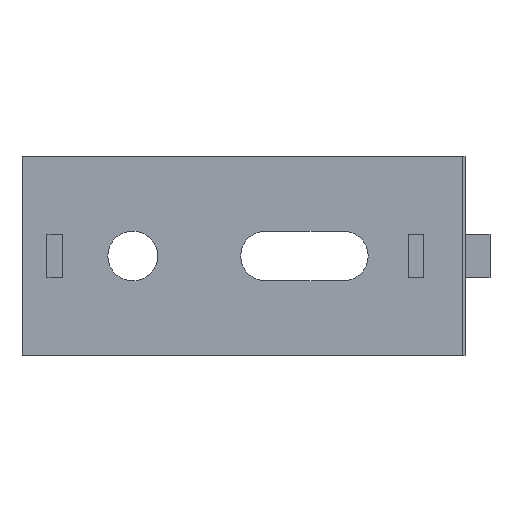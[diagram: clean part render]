
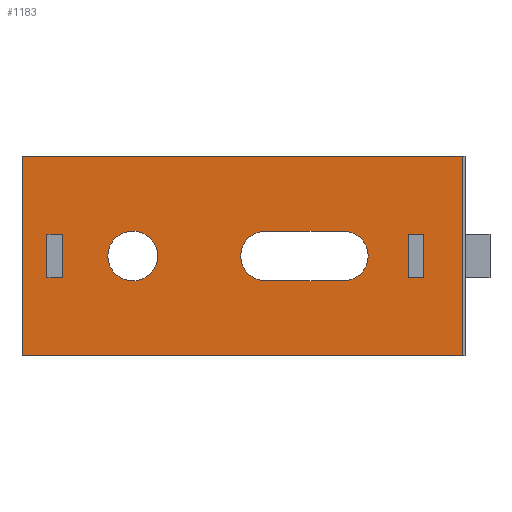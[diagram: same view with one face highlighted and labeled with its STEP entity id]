
A CAD part, left-side view. The second image highlights one B-rep face of the part: STEP entity #1183.
In plain terms, the highlighted planar face has unit normal (-1, 0, 0).
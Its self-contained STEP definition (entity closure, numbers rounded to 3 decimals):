
#277=CARTESIAN_POINT('',(-17.462,-62.038,0.0));
#278=VERTEX_POINT('',#277);
#285=CARTESIAN_POINT('',(-17.462,17.462,0.0));
#286=VERTEX_POINT('',#285);
#287=CARTESIAN_POINT('',(-17.462,-62.038,0.0));
#288=DIRECTION('',(0.0,1.0,0.0));
#289=VECTOR('',#288,79.5);
#290=LINE('',#287,#289);
#291=EDGE_CURVE('',#278,#286,#290,.T.);
#451=CARTESIAN_POINT('',(-17.462,-26.537,13.5));
#452=VERTEX_POINT('',#451);
#459=CARTESIAN_POINT('',(-17.462,-40.538,13.5));
#460=VERTEX_POINT('',#459);
#461=CARTESIAN_POINT('',(-17.462,-40.538,13.5));
#462=DIRECTION('',(0.0,1.0,0.0));
#463=VECTOR('',#462,14.);
#464=LINE('',#461,#463);
#465=EDGE_CURVE('',#460,#452,#464,.T.);
#483=CARTESIAN_POINT('',(-17.462,-40.538,22.5));
#484=VERTEX_POINT('',#483);
#485=CARTESIAN_POINT('',(-17.462,-40.538,18.0));
#486=DIRECTION('',(1.0,0.0,0.0));
#487=DIRECTION('',(0.0,0.0,-1.0));
#488=AXIS2_PLACEMENT_3D('',#485,#486,#487);
#489=CIRCLE('',#488,4.5);
#490=EDGE_CURVE('',#484,#460,#489,.T.);
#508=CARTESIAN_POINT('',(-17.462,-26.537,22.5));
#509=VERTEX_POINT('',#508);
#510=CARTESIAN_POINT('',(-17.462,-26.537,22.5));
#511=DIRECTION('',(0.0,-1.0,0.0));
#512=VECTOR('',#511,14.);
#513=LINE('',#510,#512);
#514=EDGE_CURVE('',#509,#484,#513,.T.);
#532=CARTESIAN_POINT('',(-17.462,-26.537,18.0));
#533=DIRECTION('',(1.0,0.0,0.0));
#534=DIRECTION('',(0.0,0.0,1.0));
#535=AXIS2_PLACEMENT_3D('',#532,#533,#534);
#536=CIRCLE('',#535,4.5);
#537=EDGE_CURVE('',#452,#509,#536,.T.);
#552=CARTESIAN_POINT('',(-17.462,-2.538,22.5));
#553=VERTEX_POINT('',#552);
#554=CARTESIAN_POINT('',(-17.462,-2.538,18.0));
#555=DIRECTION('',(1.0,0.0,0.0));
#556=DIRECTION('',(0.0,0.0,-1.0));
#557=AXIS2_PLACEMENT_3D('',#554,#555,#556);
#558=CIRCLE('',#557,4.5);
#559=EDGE_CURVE('',#553,#553,#558,.T.);
#851=CARTESIAN_POINT('',(-17.462,-55.038,21.9));
#852=VERTEX_POINT('',#851);
#859=CARTESIAN_POINT('',(-17.462,-52.237,21.9));
#860=VERTEX_POINT('',#859);
#861=CARTESIAN_POINT('',(-17.462,-52.237,21.9));
#862=DIRECTION('',(0.0,-1.0,0.0));
#863=VECTOR('',#862,2.8);
#864=LINE('',#861,#863);
#865=EDGE_CURVE('',#860,#852,#864,.T.);
#889=CARTESIAN_POINT('',(-17.462,-55.038,14.1));
#890=VERTEX_POINT('',#889);
#897=CARTESIAN_POINT('',(-17.462,-55.038,21.9));
#898=DIRECTION('',(0.0,0.0,-1.0));
#899=VECTOR('',#898,7.8);
#900=LINE('',#897,#899);
#901=EDGE_CURVE('',#852,#890,#900,.T.);
#920=CARTESIAN_POINT('',(-17.462,-52.237,14.1));
#921=VERTEX_POINT('',#920);
#928=CARTESIAN_POINT('',(-17.462,-55.038,14.1));
#929=DIRECTION('',(0.0,1.0,0.0));
#930=VECTOR('',#929,2.8);
#931=LINE('',#928,#930);
#932=EDGE_CURVE('',#890,#921,#931,.T.);
#950=CARTESIAN_POINT('',(-17.462,-52.237,14.1));
#951=DIRECTION('',(0.0,0.0,1.0));
#952=VECTOR('',#951,7.8);
#953=LINE('',#950,#952);
#954=EDGE_CURVE('',#921,#860,#953,.T.);
#987=CARTESIAN_POINT('',(-17.462,10.162,21.9));
#988=VERTEX_POINT('',#987);
#995=CARTESIAN_POINT('',(-17.462,12.962,21.9));
#996=VERTEX_POINT('',#995);
#997=CARTESIAN_POINT('',(-17.462,12.962,21.9));
#998=DIRECTION('',(0.0,-1.0,0.0));
#999=VECTOR('',#998,2.8);
#1000=LINE('',#997,#999);
#1001=EDGE_CURVE('',#996,#988,#1000,.T.);
#1025=CARTESIAN_POINT('',(-17.462,10.162,14.1));
#1026=VERTEX_POINT('',#1025);
#1033=CARTESIAN_POINT('',(-17.462,10.162,21.9));
#1034=DIRECTION('',(0.0,0.0,-1.0));
#1035=VECTOR('',#1034,7.8);
#1036=LINE('',#1033,#1035);
#1037=EDGE_CURVE('',#988,#1026,#1036,.T.);
#1056=CARTESIAN_POINT('',(-17.462,12.962,14.1));
#1057=VERTEX_POINT('',#1056);
#1064=CARTESIAN_POINT('',(-17.462,10.162,14.1));
#1065=DIRECTION('',(0.0,1.0,0.0));
#1066=VECTOR('',#1065,2.8);
#1067=LINE('',#1064,#1066);
#1068=EDGE_CURVE('',#1026,#1057,#1067,.T.);
#1086=CARTESIAN_POINT('',(-17.462,12.962,14.1));
#1087=DIRECTION('',(0.0,0.0,1.0));
#1088=VECTOR('',#1087,7.8);
#1089=LINE('',#1086,#1088);
#1090=EDGE_CURVE('',#1057,#996,#1089,.T.);
#1115=CARTESIAN_POINT('',(-17.462,-62.038,36.0));
#1116=VERTEX_POINT('',#1115);
#1123=CARTESIAN_POINT('',(-17.462,-62.038,36.0));
#1124=DIRECTION('',(0.0,0.0,-1.0));
#1125=VECTOR('',#1124,36.0);
#1126=LINE('',#1123,#1125);
#1127=EDGE_CURVE('',#1116,#278,#1126,.T.);
#1139=CARTESIAN_POINT('',(-17.462,-62.538,0.0));
#1140=DIRECTION('',(-1.0,0.0,0.0));
#1141=DIRECTION('',(0.0,0.0,1.0));
#1142=AXIS2_PLACEMENT_3D('',#1139,#1140,#1141);
#1143=PLANE('',#1142);
#1144=ORIENTED_EDGE('',*,*,#1127,.F.);
#1145=CARTESIAN_POINT('',(-17.462,17.462,36.0));
#1146=VERTEX_POINT('',#1145);
#1147=CARTESIAN_POINT('',(-17.462,-62.038,36.0));
#1148=DIRECTION('',(0.0,1.0,0.0));
#1149=VECTOR('',#1148,79.5);
#1150=LINE('',#1147,#1149);
#1151=EDGE_CURVE('',#1116,#1146,#1150,.T.);
#1152=ORIENTED_EDGE('',*,*,#1151,.T.);
#1153=CARTESIAN_POINT('',(-17.462,17.462,0.0));
#1154=DIRECTION('',(0.0,0.0,1.0));
#1155=VECTOR('',#1154,36.0);
#1156=LINE('',#1153,#1155);
#1157=EDGE_CURVE('',#286,#1146,#1156,.T.);
#1158=ORIENTED_EDGE('',*,*,#1157,.F.);
#1159=ORIENTED_EDGE('',*,*,#291,.F.);
#1160=EDGE_LOOP('',(#1144,#1152,#1158,#1159));
#1161=FACE_OUTER_BOUND('',#1160,.T.);
#1162=ORIENTED_EDGE('',*,*,#465,.T.);
#1163=ORIENTED_EDGE('',*,*,#537,.T.);
#1164=ORIENTED_EDGE('',*,*,#514,.T.);
#1165=ORIENTED_EDGE('',*,*,#490,.T.);
#1166=EDGE_LOOP('',(#1162,#1163,#1164,#1165));
#1167=FACE_BOUND('',#1166,.T.);
#1168=ORIENTED_EDGE('',*,*,#559,.T.);
#1169=EDGE_LOOP('',(#1168));
#1170=FACE_BOUND('',#1169,.T.);
#1171=ORIENTED_EDGE('',*,*,#865,.T.);
#1172=ORIENTED_EDGE('',*,*,#901,.T.);
#1173=ORIENTED_EDGE('',*,*,#932,.T.);
#1174=ORIENTED_EDGE('',*,*,#954,.T.);
#1175=EDGE_LOOP('',(#1171,#1172,#1173,#1174));
#1176=FACE_BOUND('',#1175,.T.);
#1177=ORIENTED_EDGE('',*,*,#1001,.T.);
#1178=ORIENTED_EDGE('',*,*,#1037,.T.);
#1179=ORIENTED_EDGE('',*,*,#1068,.T.);
#1180=ORIENTED_EDGE('',*,*,#1090,.T.);
#1181=EDGE_LOOP('',(#1177,#1178,#1179,#1180));
#1182=FACE_BOUND('',#1181,.T.);
#1183=ADVANCED_FACE('',(#1161,#1167,#1170,#1176,#1182),#1143,.T.);
